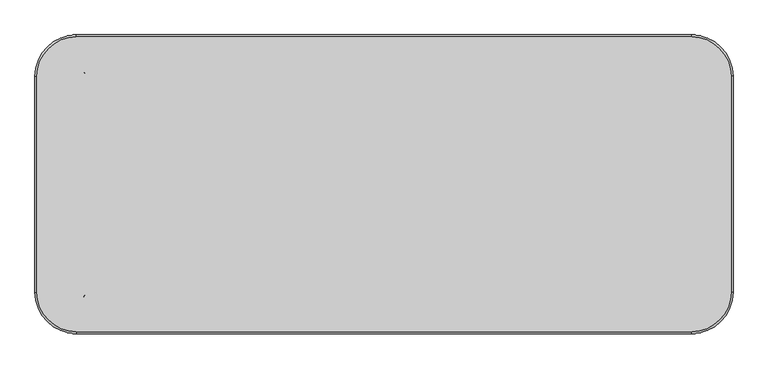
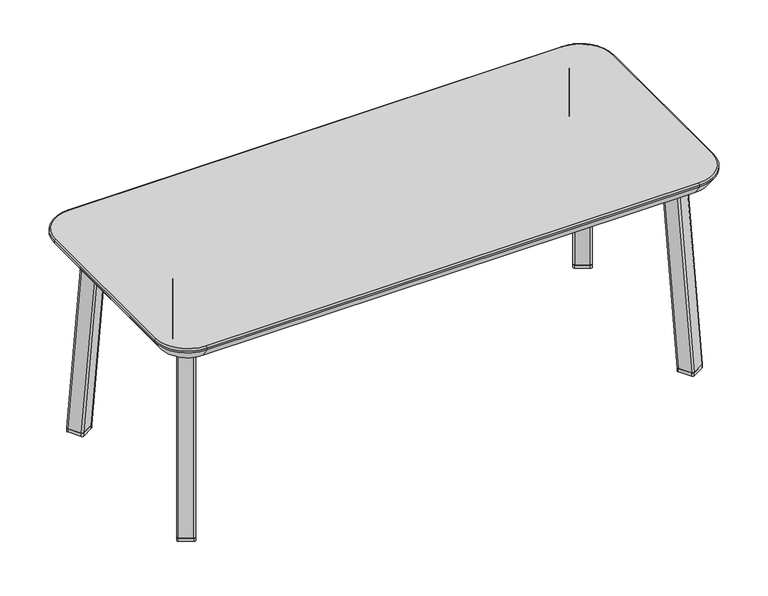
"""IFC4 building model written with IfcOpenShell, lengths in millimetres: furniture geometry, Stance_HC-Jensen-Occasional-Table : JETF184216-T."""

from ifc_helpers import new_model, si_unit, point, frame, frame_2d, origin, origin_with_axes, place, context, project, spatial, polyline, circle_curve, ellipse_curve, trimmed, segment, composite_curve, outline, extrude, source, transform, mapped, element, save
from ifc_brep_helpers import plane_surface, cylinder_surface, revolved_surface, extruded_surface, advanced_brep


def furniture_e1ee54df(model_context):
    return source(origin(), model_context, "Body", "SolidModel", [
        extrude(outline(composite_curve([segment(polyline([(499.481574, -184.2321033), (477.4845247, -196.9321056)]), True, "CONTINUOUS"), segment(trimmed(circle_curve(frame_2d((475.8970247, -194.182475)), 3.175), [point((477.4845247, -196.9321056))], [point((473.147394, -195.769975))], False, "CARTESIAN"), True, "CONTINUOUS"), segment(polyline([(473.147394, -195.769975), (460.3983038, -173.687903)]), True, "CONTINUOUS"), segment(trimmed(circle_curve(frame_2d((463.1479345, -172.100403)), 3.175), [point((460.3983038, -173.687903))], [point((461.5604345, -169.3507723))], False, "CARTESIAN"), True, "CONTINUOUS"), segment(polyline([(461.5604345, -169.3507723), (483.5574838, -156.65077)]), True, "CONTINUOUS"), segment(trimmed(circle_curve(frame_2d((485.1449838, -159.4004007)), 3.175), [point((483.5574838, -156.65077))], [point((487.8946144, -157.8129007))], False, "CARTESIAN"), True, "CONTINUOUS"), segment(polyline([(487.8946144, -157.8129007), (500.6437046, -179.8949726)]), True, "CONTINUOUS"), segment(trimmed(circle_curve(frame_2d((497.894074, -181.4824726)), 3.175), [point((500.6437046, -179.8949726))], [point((499.481574, -184.2321033))], False, "CARTESIAN"), True, "CONTINUOUS")], self_intersect=False)), origin_with_axes(), (0.0, 0.0, 1.0), 6.35),
        extrude(outline(composite_curve([segment(polyline([(477.4845247, 196.9321056), (499.481574, 184.2321033)]), True, "CONTINUOUS"), segment(trimmed(circle_curve(frame_2d((497.894074, 181.4824726)), 3.175), [point((499.481574, 184.2321033))], [point((500.6437046, 179.8949726))], False, "CARTESIAN"), True, "CONTINUOUS"), segment(polyline([(500.6437046, 179.8949726), (487.8946144, 157.8129007)]), True, "CONTINUOUS"), segment(trimmed(circle_curve(frame_2d((485.1449838, 159.4004007)), 3.175), [point((487.8946144, 157.8129007))], [point((483.5574838, 156.65077))], False, "CARTESIAN"), True, "CONTINUOUS"), segment(polyline([(483.5574838, 156.65077), (461.5604345, 169.3507723)]), True, "CONTINUOUS"), segment(trimmed(circle_curve(frame_2d((463.1479345, 172.100403)), 3.175), [point((461.5604345, 169.3507723))], [point((460.3983038, 173.687903))], False, "CARTESIAN"), True, "CONTINUOUS"), segment(polyline([(460.3983038, 173.687903), (473.147394, 195.769975)]), True, "CONTINUOUS"), segment(trimmed(circle_curve(frame_2d((475.8970247, 194.182475)), 3.175), [point((473.147394, 195.769975))], [point((477.4845247, 196.9321056))], False, "CARTESIAN"), True, "CONTINUOUS")], self_intersect=False)), origin_with_axes(), (0.0, 0.0, 1.0), 6.35),
        advanced_brep(
        [(446.7120024, -143.6325373, 380.5094413), (445.5498717, -147.9696679, 380.5094413), (458.2989619, -170.0517399, 380.5094413), (462.6360926, -171.2138706, 380.5094413), (484.6331418, -158.5138683, 380.5094413), (485.7952725, -154.1767376, 380.5094413), (473.0461823, -132.0946656, 380.5094413), (468.7090516, -130.932535, 380.5094413), (461.5604345, -169.3507723, 6.35), (483.5574838, -156.65077, 6.35), (487.8946144, -157.8129007, 6.35), (500.6437046, -179.8949726, 6.35), (499.481574, -184.2321033, 6.35), (477.4845247, -196.9321056, 6.35), (473.147394, -195.769975, 6.35), (460.3983038, -173.687903, 6.35)],
        [
            (0, 1, circle_curve(frame((448.2995024, -146.3821679, 380.5094413), z_axis=(0.0, 0.0, 1.0), x_axis=(-1.0, 0.0, 0.0)), 3.175)),
            (1, 2),
            (2, 3, circle_curve(frame((461.0485926, -168.4642399, 380.5094413), z_axis=(0.0, 0.0, 1.0), x_axis=(-1.0, 0.0, 0.0)), 3.175)),
            (3, 4),
            (4, 5, circle_curve(frame((483.0456418, -155.7642376, 380.5094413), z_axis=(0.0, 0.0, 1.0), x_axis=(-1.0, 0.0, 0.0)), 3.175)),
            (5, 6),
            (6, 7, circle_curve(frame((470.2965516, -133.6821656, 380.5094413), z_axis=(0.0, 0.0, 1.0), x_axis=(-1.0, 0.0, 0.0)), 3.175)),
            (7, 0),
            (8, 9),
            (9, 10, circle_curve(frame((485.1449838, -159.4004007, 6.35), z_axis=(0.0, 0.0, -1.0), x_axis=(-1.0, 0.0, 0.0)), 3.175)),
            (10, 11),
            (11, 12, circle_curve(frame((497.894074, -181.4824726, 6.35), z_axis=(0.0, 0.0, -1.0), x_axis=(-1.0, 0.0, 0.0)), 3.175)),
            (12, 13),
            (13, 14, circle_curve(frame((475.8970247, -194.182475, 6.35), z_axis=(0.0, 0.0, -1.0), x_axis=(-1.0, 0.0, 0.0)), 3.175)),
            (14, 15),
            (15, 8, circle_curve(frame((463.1479345, -172.100403, 6.35), z_axis=(0.0, 0.0, -1.0), x_axis=(-1.0, 0.0, 0.0)), 3.175)),
            (15, 1),
            (0, 8),
            (14, 2),
            (13, 3),
            (12, 4),
            (11, 5),
            (10, 6),
            (9, 7),
        ],
        [
            plane_surface(frame((465.6725721, -151.0732028, 380.5094413), z_axis=(0.0, 0.0, 1.0000000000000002), x_axis=(0.8660254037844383, 0.5000000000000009, 0.0))),
            plane_surface(frame((480.5210042, -176.7914378, 6.35), z_axis=(0.0, 0.0, -1.0000000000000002), x_axis=(0.8660254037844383, 0.5000000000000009, 0.0))),
            extruded_surface(trimmed(circle_curve(frame((448.2995024, -146.3821679, 380.5094413), z_axis=(0.0, 0.0, -1.0), x_axis=(-1.0, 0.0, 0.0)), 3.175), [point((445.5498717, -147.9696679, 380.5094413))], [point((446.7120024, -143.6325373, 380.5094413))], True, "CARTESIAN"), (14.848432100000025, -25.718235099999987, -374.15944129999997), 375.3361041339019),
            plane_surface(frame((466.7728489, -184.728939, 6.35), z_axis=(-0.8660254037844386, -0.5000000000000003, -5.1142628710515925e-09), x_axis=(-0.5000000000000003, 0.8660254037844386, 0.0))),
            extruded_surface(trimmed(circle_curve(frame((461.0485926, -168.4642399, 380.5094413), z_axis=(0.0, 0.0, -1.0), x_axis=(-1.0, 0.0, 0.0)), 3.175), [point((462.6360926, -171.2138706, 380.5094413))], [point((458.2989619, -170.0517399, 380.5094413))], True, "CARTESIAN"), (14.848432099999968, -25.718235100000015, -374.15944129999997), 375.3361041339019),
            plane_surface(frame((488.4830493, -190.5821045, 6.35), z_axis=(0.4984325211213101, -0.863310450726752, 0.07912071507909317), x_axis=(-0.8660254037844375, -0.500000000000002, 0.0))),
            extruded_surface(trimmed(circle_curve(frame((483.0456418, -155.7642376, 380.5094413), z_axis=(0.0, 0.0, -1.0), x_axis=(-1.0, 0.0, 0.0)), 3.175), [point((485.7952725, -154.1767376, 380.5094413))], [point((484.6331418, -158.5138683, 380.5094413))], True, "CARTESIAN"), (14.84843219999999, -25.718234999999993, -374.15944129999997), 375.3361041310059),
            plane_surface(frame((494.2691595, -168.8539367, 6.35), z_axis=(0.866025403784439, 0.4999999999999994, 5.114262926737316e-09), x_axis=(0.4999999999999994, -0.866025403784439, 0.0))),
            extruded_surface(trimmed(circle_curve(frame((470.2965516, -133.6821656, 380.5094413), z_axis=(0.0, 0.0, -1.0), x_axis=(-1.0, 0.0, 0.0)), 3.175), [point((468.7090516, -130.932535, 380.5094413))], [point((473.0461823, -132.0946656, 380.5094413))], True, "CARTESIAN"), (14.84843219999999, -25.718235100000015, -374.15944129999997), 375.336104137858),
            plane_surface(frame((472.5589591, -163.0007712, 6.35), z_axis=(-0.49843252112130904, 0.8633104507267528, -0.07912071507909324), x_axis=(0.8660254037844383, 0.5000000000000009, 0.0))),
        ],
        [
            (0, [[1, 2, 3, 4, 5, 6, 7, 8]]),
            (1, [[9, 10, 11, 12, 13, 14, 15, 16]]),
            (2, [[17, -1, 18, -16]]),
            (3, [[19, -2, -17, -15]]),
            (4, [[20, -3, -19, -14]]),
            (5, [[21, -4, -20, -13]]),
            (6, [[22, -5, -21, -12]]),
            (7, [[23, -6, -22, -11]]),
            (8, [[24, -7, -23, -10]]),
            (9, [[-18, -8, -24, -9]]),
        ],
    ),
        extrude(outline(polyline([(505.5820372, 175.8326548), (404.3982292, 0.0), (505.5820372, -175.8326548), (467.1068508, -197.9733992), (353.1820372, 0.0), (467.1068508, 197.9733992), (505.5820372, 175.8326548)])), frame((0.0, 0.0, 380.5094413), z_axis=(0.0, 0.0, 1.0), x_axis=(1.0, 0.0, 0.0)), (0.0, 0.0, 1.0), 3.1749879),
        advanced_brep(
        [(446.7120024, 143.6325373, 380.5094413), (468.7090516, 130.932535, 380.5094413), (473.0461823, 132.0946656, 380.5094413), (485.7952725, 154.1767376, 380.5094413), (484.6331418, 158.5138683, 380.5094413), (462.6360926, 171.2138706, 380.5094413), (458.2989619, 170.0517399, 380.5094413), (445.5498717, 147.9696679, 380.5094413), (461.5604345, 169.3507723, 6.35), (460.3983038, 173.687903, 6.35), (473.147394, 195.769975, 6.35), (477.4845247, 196.9321056, 6.35), (499.481574, 184.2321033, 6.35), (500.6437046, 179.8949726, 6.35), (487.8946144, 157.8129007, 6.35), (483.5574838, 156.65077, 6.35)],
        [
            (0, 1),
            (1, 2, circle_curve(frame((470.2965516, 133.6821656, 380.5094413), z_axis=(0.0, 0.0, 1.0), x_axis=(-1.0, 0.0, 0.0)), 3.175)),
            (2, 3),
            (3, 4, circle_curve(frame((483.0456418, 155.7642376, 380.5094413), z_axis=(0.0, 0.0, 1.0), x_axis=(-1.0, 0.0, 0.0)), 3.175)),
            (4, 5),
            (5, 6, circle_curve(frame((461.0485926, 168.4642399, 380.5094413), z_axis=(0.0, 0.0, 1.0), x_axis=(-1.0, 0.0, 0.0)), 3.175)),
            (6, 7),
            (7, 0, circle_curve(frame((448.2995024, 146.3821679, 380.5094413), z_axis=(0.0, 0.0, 1.0), x_axis=(-1.0, 0.0, 0.0)), 3.175)),
            (8, 9, circle_curve(frame((463.1479345, 172.100403, 6.35), z_axis=(0.0, 0.0, -1.0), x_axis=(-1.0, 0.0, 0.0)), 3.175)),
            (9, 10),
            (10, 11, circle_curve(frame((475.8970247, 194.182475, 6.35), z_axis=(0.0, 0.0, -1.0), x_axis=(-1.0, 0.0, 0.0)), 3.175)),
            (11, 12),
            (12, 13, circle_curve(frame((497.894074, 181.4824726, 6.35), z_axis=(0.0, 0.0, -1.0), x_axis=(-1.0, 0.0, 0.0)), 3.175)),
            (13, 14),
            (14, 15, circle_curve(frame((485.1449838, 159.4004007, 6.35), z_axis=(0.0, 0.0, -1.0), x_axis=(-1.0, 0.0, 0.0)), 3.175)),
            (15, 8),
            (8, 0),
            (7, 9),
            (6, 10),
            (5, 11),
            (4, 12),
            (3, 13),
            (2, 14),
            (1, 15),
        ],
        [
            plane_surface(frame((465.6725721, 151.0732028, 380.5094413), z_axis=(0.0, 0.0, 1.0), x_axis=(-0.8660254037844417, 0.49999999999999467, 0.0))),
            plane_surface(frame((480.5210042, 176.7914378, 6.35), z_axis=(0.0, 0.0, -1.0), x_axis=(-0.8660254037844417, 0.49999999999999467, 0.0))),
            extruded_surface(trimmed(circle_curve(frame((448.2995024, 146.3821679, 380.5094413), z_axis=(0.0, 0.0, -1.0), x_axis=(-1.0, 0.0, 0.0)), 3.175), [point((446.7120024, 143.6325373, 380.5094413))], [point((445.5498717, 147.9696679, 380.5094413))], True, "CARTESIAN"), (14.848432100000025, 25.718235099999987, -374.15944129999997), 375.3361041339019),
            plane_surface(frame((466.7728489, 184.728939, 6.35), z_axis=(-0.8660254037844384, 0.5000000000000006, -5.114262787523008e-09), x_axis=(0.5000000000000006, 0.8660254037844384, 0.0))),
            extruded_surface(trimmed(circle_curve(frame((461.0485926, 168.4642399, 380.5094413), z_axis=(0.0, 0.0, -1.0), x_axis=(-1.0, 0.0, 0.0)), 3.175), [point((458.2989619, 170.0517399, 380.5094413))], [point((462.6360926, 171.2138706, 380.5094413))], True, "CARTESIAN"), (14.848432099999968, 25.718235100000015, -374.15944129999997), 375.3361041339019),
            plane_surface(frame((488.4830493, 190.5821045, 6.35), z_axis=(0.4984325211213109, 0.8633104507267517, 0.07912071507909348), x_axis=(0.8660254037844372, -0.5000000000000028, 0.0))),
            extruded_surface(trimmed(circle_curve(frame((483.0456418, 155.7642376, 380.5094413), z_axis=(0.0, 0.0, -1.0), x_axis=(-1.0, 0.0, 0.0)), 3.175), [point((484.6331418, 158.5138683, 380.5094413))], [point((485.7952725, 154.1767376, 380.5094413))], True, "CARTESIAN"), (14.84843219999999, 25.718234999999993, -374.15944129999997), 375.3361041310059),
            plane_surface(frame((494.2691595, 168.8539367, 6.35), z_axis=(0.8660254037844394, -0.49999999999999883, 5.1142628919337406e-09), x_axis=(-0.49999999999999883, -0.8660254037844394, 0.0))),
            extruded_surface(trimmed(circle_curve(frame((470.2965516, 133.6821656, 380.5094413), z_axis=(0.0, 0.0, -1.0), x_axis=(-1.0, 0.0, 0.0)), 3.175), [point((473.0461823, 132.0946656, 380.5094413))], [point((468.7090516, 130.932535, 380.5094413))], True, "CARTESIAN"), (14.84843219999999, 25.718235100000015, -374.15944129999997), 375.336104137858),
            plane_surface(frame((472.5589591, 163.0007712, 6.35), z_axis=(-0.4984325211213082, -0.8633104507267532, -0.07912071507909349), x_axis=(-0.8660254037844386, 0.5000000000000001, 0.0))),
        ],
        [
            (0, [[1, 2, 3, 4, 5, 6, 7, 8]]),
            (1, [[9, 10, 11, 12, 13, 14, 15, 16]]),
            (2, [[17, -8, 18, -9]]),
            (3, [[-18, -7, 19, -10]]),
            (4, [[-19, -6, 20, -11]]),
            (5, [[-20, -5, 21, -12]]),
            (6, [[-21, -4, 22, -13]]),
            (7, [[-22, -3, 23, -14]]),
            (8, [[-23, -2, 24, -15]]),
            (9, [[-24, -1, -17, -16]]),
        ],
    ),
        extrude(outline(composite_curve([segment(trimmed(circle_curve(frame_2d((-496.490244, -181.4824726)), 3.175), [point((-498.077744, -184.2321033))], [point((-499.2398747, -179.8949726))], False, "CARTESIAN"), True, "CONTINUOUS"), segment(polyline([(-499.2398747, -179.8949726), (-486.4907845, -157.8129007)]), True, "CONTINUOUS"), segment(trimmed(circle_curve(frame_2d((-483.7411538, -159.4004007)), 3.175), [point((-486.4907845, -157.8129007))], [point((-482.1536538, -156.65077))], False, "CARTESIAN"), True, "CONTINUOUS"), segment(polyline([(-482.1536538, -156.65077), (-460.1566046, -169.3507723)]), True, "CONTINUOUS"), segment(trimmed(circle_curve(frame_2d((-461.7441046, -172.100403)), 3.175), [point((-460.1566046, -169.3507723))], [point((-458.9944739, -173.687903))], False, "CARTESIAN"), True, "CONTINUOUS"), segment(polyline([(-458.9944739, -173.687903), (-471.7435641, -195.769975)]), True, "CONTINUOUS"), segment(trimmed(circle_curve(frame_2d((-474.4931948, -194.182475)), 3.175), [point((-471.7435641, -195.769975))], [point((-476.0806948, -196.9321056))], False, "CARTESIAN"), True, "CONTINUOUS"), segment(polyline([(-476.0806948, -196.9321056), (-498.077744, -184.2321033)]), True, "CONTINUOUS")], self_intersect=False)), origin_with_axes(), (0.0, 0.0, 1.0), 6.35),
        extrude(outline(composite_curve([segment(trimmed(circle_curve(frame_2d((-474.4931948, 194.182475)), 3.175), [point((-476.0806948, 196.9321056))], [point((-471.7435641, 195.769975))], False, "CARTESIAN"), True, "CONTINUOUS"), segment(polyline([(-471.7435641, 195.769975), (-458.9944739, 173.687903)]), True, "CONTINUOUS"), segment(trimmed(circle_curve(frame_2d((-461.7441046, 172.100403)), 3.175), [point((-458.9944739, 173.687903))], [point((-460.1566046, 169.3507723))], False, "CARTESIAN"), True, "CONTINUOUS"), segment(polyline([(-460.1566046, 169.3507723), (-482.1536538, 156.65077)]), True, "CONTINUOUS"), segment(trimmed(circle_curve(frame_2d((-483.7411538, 159.4004007)), 3.175), [point((-482.1536538, 156.65077))], [point((-486.4907845, 157.8129007))], False, "CARTESIAN"), True, "CONTINUOUS"), segment(polyline([(-486.4907845, 157.8129007), (-499.2398747, 179.8949726)]), True, "CONTINUOUS"), segment(trimmed(circle_curve(frame_2d((-496.490244, 181.4824726)), 3.175), [point((-499.2398747, 179.8949726))], [point((-498.077744, 184.2321033))], False, "CARTESIAN"), True, "CONTINUOUS"), segment(polyline([(-498.077744, 184.2321033), (-476.0806948, 196.9321056)]), True, "CONTINUOUS")], self_intersect=False)), origin_with_axes(), (0.0, 0.0, 1.0), 6.35),
        advanced_brep(
        [(-445.3081724, -143.6325373, 380.5094413), (-467.3052217, -130.932535, 380.5094413), (-471.6423524, -132.0946656, 380.5094413), (-484.3914426, -154.1767376, 380.5094413), (-483.2293119, -158.5138683, 380.5094413), (-461.2322626, -171.2138706, 380.5094413), (-456.895132, -170.0517399, 380.5094413), (-444.1460418, -147.9696679, 380.5094413), (-460.1566046, -169.3507723, 6.35), (-458.9944739, -173.687903, 6.35), (-471.7435641, -195.769975, 6.35), (-476.0806948, -196.9321056, 6.35), (-498.077744, -184.2321033, 6.35), (-499.2398747, -179.8949726, 6.35), (-486.4907845, -157.8129007, 6.35), (-482.1536538, -156.65077, 6.35)],
        [
            (0, 1),
            (1, 2, circle_curve(frame((-468.8927217, -133.6821656, 380.5094413), z_axis=(0.0, 0.0, 1.0), x_axis=(1.0, 0.0, 0.0)), 3.175)),
            (2, 3),
            (3, 4, circle_curve(frame((-481.6418119, -155.7642376, 380.5094413), z_axis=(0.0, 0.0, 1.0), x_axis=(1.0, 0.0, 0.0)), 3.175)),
            (4, 5),
            (5, 6, circle_curve(frame((-459.6447626, -168.4642399, 380.5094413), z_axis=(0.0, 0.0, 1.0), x_axis=(1.0, 0.0, 0.0)), 3.175)),
            (6, 7),
            (7, 0, circle_curve(frame((-446.8956724, -146.3821679, 380.5094413), z_axis=(0.0, 0.0, 1.0), x_axis=(1.0, 0.0, 0.0)), 3.175)),
            (8, 9, circle_curve(frame((-461.7441046, -172.100403, 6.35), z_axis=(0.0, 0.0, -1.0), x_axis=(1.0, 0.0, 0.0)), 3.175)),
            (9, 10),
            (10, 11, circle_curve(frame((-474.4931948, -194.182475, 6.35), z_axis=(0.0, 0.0, -1.0), x_axis=(1.0, 0.0, 0.0)), 3.175)),
            (11, 12),
            (12, 13, circle_curve(frame((-496.490244, -181.4824726, 6.35), z_axis=(0.0, 0.0, -1.0), x_axis=(1.0, 0.0, 0.0)), 3.175)),
            (13, 14),
            (14, 15, circle_curve(frame((-483.7411538, -159.4004007, 6.35), z_axis=(0.0, 0.0, -1.0), x_axis=(1.0, 0.0, 0.0)), 3.175)),
            (15, 8),
            (8, 0),
            (7, 9),
            (6, 10),
            (5, 11),
            (4, 12),
            (3, 13),
            (2, 14),
            (1, 15),
        ],
        [
            plane_surface(frame((-464.2687422, -151.0732028, 380.5094413), z_axis=(0.0, 0.0, 1.0000000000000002), x_axis=(-0.8660254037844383, 0.5000000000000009, 0.0))),
            plane_surface(frame((-479.1171743, -176.7914378, 6.35), z_axis=(0.0, 0.0, -1.0000000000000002), x_axis=(-0.8660254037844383, 0.5000000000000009, 0.0))),
            extruded_surface(trimmed(circle_curve(frame((-461.7441046, -172.100403, 6.35), z_axis=(0.0, 0.0, 1.0), x_axis=(1.0, 0.0, 0.0)), 3.175), [point((-458.9944739, -173.687903, 6.35))], [point((-460.1566046, -169.3507723, 6.35))], True, "CARTESIAN"), (14.84843219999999, 25.718235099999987, 374.15944129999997), 375.336104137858),
            plane_surface(frame((-465.369019, -184.728939, 6.35), z_axis=(0.8660254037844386, -0.5000000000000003, -5.1142628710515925e-09), x_axis=(0.5000000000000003, 0.8660254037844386, 0.0))),
            extruded_surface(trimmed(circle_curve(frame((-474.4931948, -194.182475, 6.35), z_axis=(0.0, 0.0, 1.0), x_axis=(1.0, 0.0, 0.0)), 3.175), [point((-476.0806948, -196.9321056, 6.35))], [point((-471.7435641, -195.769975, 6.35))], True, "CARTESIAN"), (14.848432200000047, 25.718235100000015, 374.15944129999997), 375.336104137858),
            plane_surface(frame((-487.0792194, -190.5821045, 6.35), z_axis=(-0.4984325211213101, -0.863310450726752, 0.07912071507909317), x_axis=(0.8660254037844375, -0.500000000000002, 0.0))),
            extruded_surface(trimmed(circle_curve(frame((-496.490244, -181.4824726, 6.35), z_axis=(0.0, 0.0, 1.0), x_axis=(1.0, 0.0, 0.0)), 3.175), [point((-499.2398747, -179.8949726, 6.35))], [point((-498.077744, -184.2321033, 6.35))], True, "CARTESIAN"), (14.848432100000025, 25.718234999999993, 374.15944129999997), 375.3361041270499),
            plane_surface(frame((-492.8653296, -168.8539367, 6.35), z_axis=(-0.866025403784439, 0.4999999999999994, 5.114262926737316e-09), x_axis=(-0.4999999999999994, -0.866025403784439, 0.0))),
            extruded_surface(trimmed(circle_curve(frame((-483.7411538, -159.4004007, 6.35), z_axis=(0.0, 0.0, 1.0), x_axis=(1.0, 0.0, 0.0)), 3.175), [point((-482.1536538, -156.65077, 6.35))], [point((-486.4907845, -157.8129007, 6.35))], True, "CARTESIAN"), (14.848432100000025, 25.718235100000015, 374.15944129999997), 375.3361041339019),
            plane_surface(frame((-471.1551292, -163.0007712, 6.35), z_axis=(0.49843252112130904, 0.8633104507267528, -0.07912071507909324), x_axis=(-0.8660254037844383, 0.5000000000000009, 0.0))),
        ],
        [
            (0, [[1, 2, 3, 4, 5, 6, 7, 8]]),
            (1, [[9, 10, 11, 12, 13, 14, 15, 16]]),
            (2, [[-9, 17, -8, 18]]),
            (3, [[-10, -18, -7, 19]]),
            (4, [[-11, -19, -6, 20]]),
            (5, [[-12, -20, -5, 21]]),
            (6, [[-13, -21, -4, 22]]),
            (7, [[-14, -22, -3, 23]]),
            (8, [[-15, -23, -2, 24]]),
            (9, [[-16, -24, -1, -17]]),
        ],
    ),
        extrude(outline(polyline([(-504.1782073, 175.8326548), (-465.7030209, 197.9733992), (-351.7782073, 0.0), (-465.7030209, -197.9733992), (-504.1782073, -175.8326548), (-402.9943993, 0.0), (-504.1782073, 175.8326548)])), frame((0.0, 0.0, 380.5094413), z_axis=(0.0, 0.0, 1.0), x_axis=(1.0, 0.0, 0.0)), (0.0, 0.0, 1.0), 3.1749879),
        advanced_brep(
        [(-445.3081724, 143.6325373, 380.5094413), (-444.1460418, 147.9696679, 380.5094413), (-456.895132, 170.0517399, 380.5094413), (-461.2322626, 171.2138706, 380.5094413), (-483.2293119, 158.5138683, 380.5094413), (-484.3914426, 154.1767376, 380.5094413), (-471.6423524, 132.0946656, 380.5094413), (-467.3052217, 130.932535, 380.5094413), (-460.1566046, 169.3507723, 6.35), (-482.1536538, 156.65077, 6.35), (-486.4907845, 157.8129007, 6.35), (-499.2398747, 179.8949726, 6.35), (-498.077744, 184.2321033, 6.35), (-476.0806948, 196.9321056, 6.35), (-471.7435641, 195.769975, 6.35), (-458.9944739, 173.687903, 6.35)],
        [
            (0, 1, circle_curve(frame((-446.8956724, 146.3821679, 380.5094413), z_axis=(0.0, 0.0, 1.0), x_axis=(1.0, 0.0, 0.0)), 3.175)),
            (1, 2),
            (2, 3, circle_curve(frame((-459.6447626, 168.4642399, 380.5094413), z_axis=(0.0, 0.0, 1.0), x_axis=(1.0, 0.0, 0.0)), 3.175)),
            (3, 4),
            (4, 5, circle_curve(frame((-481.6418119, 155.7642376, 380.5094413), z_axis=(0.0, 0.0, 1.0), x_axis=(1.0, 0.0, 0.0)), 3.175)),
            (5, 6),
            (6, 7, circle_curve(frame((-468.8927217, 133.6821656, 380.5094413), z_axis=(0.0, 0.0, 1.0), x_axis=(1.0, 0.0, 0.0)), 3.175)),
            (7, 0),
            (8, 9),
            (9, 10, circle_curve(frame((-483.7411538, 159.4004007, 6.35), z_axis=(0.0, 0.0, -1.0), x_axis=(1.0, 0.0, 0.0)), 3.175)),
            (10, 11),
            (11, 12, circle_curve(frame((-496.490244, 181.4824726, 6.35), z_axis=(0.0, 0.0, -1.0), x_axis=(1.0, 0.0, 0.0)), 3.175)),
            (12, 13),
            (13, 14, circle_curve(frame((-474.4931948, 194.182475, 6.35), z_axis=(0.0, 0.0, -1.0), x_axis=(1.0, 0.0, 0.0)), 3.175)),
            (14, 15),
            (15, 8, circle_curve(frame((-461.7441046, 172.100403, 6.35), z_axis=(0.0, 0.0, -1.0), x_axis=(1.0, 0.0, 0.0)), 3.175)),
            (15, 1),
            (0, 8),
            (14, 2),
            (13, 3),
            (12, 4),
            (11, 5),
            (10, 6),
            (9, 7),
        ],
        [
            plane_surface(frame((-464.2687422, 151.0732028, 380.5094413), z_axis=(0.0, 0.0, 1.0), x_axis=(0.8660254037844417, 0.49999999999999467, 0.0))),
            plane_surface(frame((-479.1171743, 176.7914378, 6.35), z_axis=(0.0, 0.0, -1.0), x_axis=(0.8660254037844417, 0.49999999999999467, 0.0))),
            extruded_surface(trimmed(circle_curve(frame((-461.7441046, 172.100403, 6.35), z_axis=(0.0, 0.0, 1.0), x_axis=(1.0, 0.0, 0.0)), 3.175), [point((-460.1566046, 169.3507723, 6.35))], [point((-458.9944739, 173.687903, 6.35))], True, "CARTESIAN"), (14.84843219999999, -25.718235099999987, 374.15944129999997), 375.336104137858),
            plane_surface(frame((-465.369019, 184.728939, 6.35), z_axis=(0.8660254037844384, 0.5000000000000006, -5.114262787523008e-09), x_axis=(-0.5000000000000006, 0.8660254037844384, 0.0))),
            extruded_surface(trimmed(circle_curve(frame((-474.4931948, 194.182475, 6.35), z_axis=(0.0, 0.0, 1.0), x_axis=(1.0, 0.0, 0.0)), 3.175), [point((-471.7435641, 195.769975, 6.35))], [point((-476.0806948, 196.9321056, 6.35))], True, "CARTESIAN"), (14.848432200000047, -25.718235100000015, 374.15944129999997), 375.336104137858),
            plane_surface(frame((-487.0792194, 190.5821045, 6.35), z_axis=(-0.4984325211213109, 0.8633104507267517, 0.07912071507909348), x_axis=(-0.8660254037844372, -0.5000000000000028, 0.0))),
            extruded_surface(trimmed(circle_curve(frame((-496.490244, 181.4824726, 6.35), z_axis=(0.0, 0.0, 1.0), x_axis=(1.0, 0.0, 0.0)), 3.175), [point((-498.077744, 184.2321033, 6.35))], [point((-499.2398747, 179.8949726, 6.35))], True, "CARTESIAN"), (14.848432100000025, -25.718234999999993, 374.15944129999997), 375.3361041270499),
            plane_surface(frame((-492.8653296, 168.8539367, 6.35), z_axis=(-0.8660254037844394, -0.49999999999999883, 5.1142628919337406e-09), x_axis=(0.49999999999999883, -0.8660254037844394, 0.0))),
            extruded_surface(trimmed(circle_curve(frame((-483.7411538, 159.4004007, 6.35), z_axis=(0.0, 0.0, 1.0), x_axis=(1.0, 0.0, 0.0)), 3.175), [point((-486.4907845, 157.8129007, 6.35))], [point((-482.1536538, 156.65077, 6.35))], True, "CARTESIAN"), (14.848432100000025, -25.718235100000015, 374.15944129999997), 375.3361041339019),
            plane_surface(frame((-471.1551292, 163.0007712, 6.35), z_axis=(0.4984325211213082, -0.8633104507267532, -0.07912071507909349), x_axis=(0.8660254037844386, 0.5000000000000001, 0.0))),
        ],
        [
            (0, [[1, 2, 3, 4, 5, 6, 7, 8]]),
            (1, [[9, 10, 11, 12, 13, 14, 15, 16]]),
            (2, [[-16, 17, -1, 18]]),
            (3, [[-15, 19, -2, -17]]),
            (4, [[-14, 20, -3, -19]]),
            (5, [[-13, 21, -4, -20]]),
            (6, [[-12, 22, -5, -21]]),
            (7, [[-11, 23, -6, -22]]),
            (8, [[-10, 24, -7, -23]]),
            (9, [[-9, -18, -8, -24]]),
        ],
    ),
        advanced_brep(
        [(533.4, -165.1, 405.9094413), (469.9, -228.6, 405.9094413), (469.9, -228.6, 402.7343928), (533.4, -165.1, 402.7343928), (469.9, -215.2610718, 383.6844292), (520.0610718, -165.1, 383.6844292), (533.4, 165.1, 402.7343928), (533.4, 165.1, 405.9094413), (520.0610718, 165.1, 383.6844292), (469.9, 228.6, 402.7343928), (469.9, 228.6, 405.9094413), (469.9, 215.2610718, 383.6844292), (-469.9, 228.6, 402.7343928), (-469.9, 228.6, 405.9094413), (-469.9, 215.2610718, 383.6844292), (-533.4, 165.1, 402.7343928), (-533.4, 165.1, 405.9094413), (-520.0610718, 165.1, 383.6844292), (-533.4, -165.1, 402.7343928), (-533.4, -165.1, 405.9094413), (-520.0610718, -165.1, 383.6844292), (-469.9, -228.6, 402.7343928), (-469.9, -228.6, 405.9094413), (-469.9, -215.2610718, 383.6844292), (-530.225, 165.1, 409.0844413), (-530.225, -165.1, 409.0844413), (-469.9, -225.425, 409.0844413), (469.9, -225.425, 409.0844413), (530.225, -165.1, 409.0844413), (530.225, 165.1, 409.0844413), (469.9, 225.425, 409.0844413), (-469.9, 225.425, 409.0844413)],
        [
            (0, 1, circle_curve(frame((469.9, -165.1, 405.9094413), z_axis=(0.0, 0.0, -1.0), x_axis=(0.0, -1.0, 0.0)), 63.5)),
            (1, 2),
            (2, 3, circle_curve(frame((469.9, -165.1, 402.7343928), z_axis=(0.0, 0.0, 1.0), x_axis=(0.0, -1.0, 0.0)), 63.5)),
            (3, 0),
            (2, 4),
            (4, 5, circle_curve(frame((469.9, -165.1, 383.6844292), z_axis=(0.0, 0.0, 1.0), x_axis=(0.0, -1.0, 0.0)), 50.1610718)),
            (5, 3),
            (3, 6),
            (6, 7),
            (7, 0),
            (5, 8),
            (8, 6),
            (6, 9, circle_curve(frame((469.9, 165.1, 402.7343928), z_axis=(0.0, 0.0, 1.0), x_axis=(1.0, 0.0, 0.0)), 63.5)),
            (9, 10),
            (10, 7, circle_curve(frame((469.9, 165.1, 405.9094413), z_axis=(0.0, 0.0, -1.0), x_axis=(1.0, 0.0, 0.0)), 63.5)),
            (8, 11, circle_curve(frame((469.9, 165.1, 383.6844292), z_axis=(0.0, 0.0, 1.0), x_axis=(1.0, 0.0, 0.0)), 50.1610718)),
            (11, 9),
            (9, 12),
            (12, 13),
            (13, 10),
            (11, 14),
            (14, 12),
            (12, 15, circle_curve(frame((-469.9, 165.1, 402.7343928), z_axis=(0.0, 0.0, 1.0), x_axis=(0.0, 1.0, 0.0)), 63.5)),
            (15, 16),
            (16, 13, circle_curve(frame((-469.9, 165.1, 405.9094413), z_axis=(0.0, 0.0, -1.0), x_axis=(0.0, 1.0, 0.0)), 63.5)),
            (14, 17, circle_curve(frame((-469.9, 165.1, 383.6844292), z_axis=(0.0, 0.0, 1.0), x_axis=(0.0, 1.0, 0.0)), 50.1610718)),
            (17, 15),
            (15, 18),
            (18, 19),
            (19, 16),
            (17, 20),
            (20, 18),
            (18, 21, circle_curve(frame((-469.9, -165.1, 402.7343928), z_axis=(0.0, 0.0, 1.0), x_axis=(-1.0, 0.0, 0.0)), 63.5)),
            (21, 22),
            (22, 19, circle_curve(frame((-469.9, -165.1, 405.9094413), z_axis=(0.0, 0.0, -1.0), x_axis=(-1.0, 0.0, 0.0)), 63.5)),
            (20, 23, circle_curve(frame((-469.9, -165.1, 383.6844292), z_axis=(0.0, 0.0, 1.0), x_axis=(-1.0, 0.0, 0.0)), 50.1610718)),
            (23, 21),
            (1, 22),
            (21, 2),
            (24, 25),
            (25, 26, circle_curve(frame((-469.9, -165.1, 409.0844413), z_axis=(0.0, 0.0, 1.0), x_axis=(-1.0, 0.0, 0.0)), 60.325)),
            (26, 27),
            (27, 28, circle_curve(frame((469.9, -165.1, 409.0844413), z_axis=(0.0, 0.0, 1.0), x_axis=(0.0, -1.0, 0.0)), 60.325)),
            (28, 29),
            (29, 30, circle_curve(frame((469.9, 165.1, 409.0844413), z_axis=(0.0, 0.0, 1.0), x_axis=(1.0, 0.0, 0.0)), 60.325)),
            (30, 31),
            (31, 24, circle_curve(frame((-469.9, 165.1, 409.0844413), z_axis=(0.0, 0.0, 1.0), x_axis=(0.0, 1.0, 0.0)), 60.325)),
            (4, 23),
            (0, 28, circle_curve(frame((530.225, -165.1, 405.9094413), z_axis=(0.0, -1.0, 0.0), x_axis=(-1.0, 0.0, 0.0)), 3.175)),
            (27, 1, circle_curve(frame((469.9, -225.425, 405.9094413), z_axis=(1.0, 0.0, 0.0), x_axis=(0.0, 1.0, 0.0)), 3.175)),
            (7, 29, circle_curve(frame((530.225, 165.1, 405.9094413), z_axis=(0.0, -1.0, 0.0), x_axis=(-1.0, 0.0, 0.0)), 3.175)),
            (10, 30, circle_curve(frame((469.9, 225.425, 405.9094413), z_axis=(1.0, 0.0, 0.0), x_axis=(0.0, -1.0, 0.0)), 3.175)),
            (13, 31, circle_curve(frame((-469.9, 225.425, 405.9094413), z_axis=(1.0, 0.0, 0.0), x_axis=(0.0, -1.0, 0.0)), 3.175)),
            (16, 24, circle_curve(frame((-530.225, 165.1, 405.9094413), z_axis=(0.0, 1.0, 0.0), x_axis=(1.0, 0.0, 0.0)), 3.175)),
            (19, 25, circle_curve(frame((-530.225, -165.1, 405.9094413), z_axis=(0.0, 1.0, 0.0), x_axis=(1.0, 0.0, 0.0)), 3.175)),
            (22, 26, circle_curve(frame((-469.9, -225.425, 405.9094413), z_axis=(-1.0, 0.0, 0.0), x_axis=(0.0, 1.0, 0.0)), 3.175)),
        ],
        [
            cylinder_surface(frame((469.9, -165.1, 409.0844413), z_axis=(0.0, 0.0, 1.0), x_axis=(0.0, -1.0, 0.0)), 63.5),
            revolved_surface(polyline([(469.9, -215.2610718, 383.6844292), (469.9, -228.6, 402.7343928)]), (469.9, -165.1, 409.0844413), (0.0, 0.0, 1.0)),
            plane_surface(frame((533.4, -165.1, 402.7343928), z_axis=(1.0, 0.0, 0.0), x_axis=(0.0, 1.0, 0.0))),
            plane_surface(frame((520.0610718, -165.1, 383.6844292), z_axis=(0.8191520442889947, 0.0, -0.5735764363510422), x_axis=(0.0, 1.0, 0.0))),
            cylinder_surface(frame((469.9, 165.1, 409.0844413), z_axis=(0.0, 0.0, 1.0), x_axis=(1.0, 0.0, 0.0)), 63.5),
            revolved_surface(polyline([(520.0610718, 165.1, 383.6844292), (533.4, 165.1, 402.7343928)]), (469.9, 165.1, 409.0844413), (0.0, 0.0, 1.0)),
            plane_surface(frame((469.9, 228.6, 402.7343928), z_axis=(0.0, 1.0, 0.0), x_axis=(-1.0, 0.0, 0.0))),
            plane_surface(frame((469.9, 215.2610718, 383.6844292), z_axis=(0.0, 0.8191520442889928, -0.5735764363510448), x_axis=(-1.0, 0.0, 0.0))),
            cylinder_surface(frame((-469.9, 165.1, 409.0844413), z_axis=(0.0, 0.0, 1.0), x_axis=(0.0, 1.0, 0.0)), 63.5),
            revolved_surface(polyline([(-469.9, 215.2610718, 383.6844292), (-469.9, 228.6, 402.7343928)]), (-469.9, 165.1, 409.0844413), (0.0, 0.0, 1.0)),
            plane_surface(frame((-533.4, 165.1, 402.7343928), z_axis=(-1.0, 0.0, 0.0), x_axis=(0.0, -1.0, 0.0))),
            plane_surface(frame((-520.0610718, 165.1, 383.6844292), z_axis=(-0.8191520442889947, 0.0, -0.5735764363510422), x_axis=(0.0, -1.0, 0.0))),
            cylinder_surface(frame((-469.9, -165.1, 409.0844413), z_axis=(0.0, 0.0, 1.0), x_axis=(-1.0, 0.0, 0.0)), 63.5),
            revolved_surface(polyline([(-520.0610718, -165.1, 383.6844292), (-533.4, -165.1, 402.7343928)]), (-469.9, -165.1, 409.0844413), (0.0, 0.0, 1.0)),
            plane_surface(frame((-469.9, -228.6, 402.7343928), z_axis=(0.0, -1.0, 0.0), x_axis=(1.0, 0.0, 0.0))),
            plane_surface(frame((-469.9, -225.425, 409.0844413), z_axis=(0.0, 0.0, 1.0), x_axis=(1.0, 0.0, 0.0))),
            plane_surface(frame((-469.9, -203.2000061, 383.6844292), z_axis=(0.0, 0.0, -1.0), x_axis=(1.0, 0.0, 0.0))),
            plane_surface(frame((-469.9, -215.2610718, 383.6844292), z_axis=(0.0, -0.8191520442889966, -0.5735764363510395), x_axis=(1.0, 0.0, 0.0))),
            revolved_surface(trimmed(ellipse_curve(frame((469.9, -225.425, 405.9094413), z_axis=(-1.0, 0.0, 0.0), x_axis=(0.0, 1.0, 0.0)), 3.175, 3.175), [point((469.9, -228.6, 405.9094413))], [point((469.9, -225.425, 409.0844413))], True, "CARTESIAN"), (469.9, -165.1, 409.0844413), (0.0, 0.0, 1.0)),
            cylinder_surface(frame((530.225, -165.1, 405.9094413), z_axis=(0.0, -1.0, 0.0), x_axis=(-1.0, 0.0, 0.0)), 3.175),
            revolved_surface(trimmed(ellipse_curve(frame((530.225, 165.1, 405.9094413), z_axis=(0.0, -1.0, 0.0), x_axis=(-1.0, 0.0, 0.0)), 3.175, 3.175), [point((533.4, 165.1, 405.9094413))], [point((530.225, 165.1, 409.0844413))], True, "CARTESIAN"), (469.9, 165.1, 409.0844413), (0.0, 0.0, 1.0)),
            cylinder_surface(frame((469.9, 225.425, 405.9094413), z_axis=(1.0, 0.0, 0.0), x_axis=(0.0, -1.0, 0.0)), 3.175),
            revolved_surface(trimmed(ellipse_curve(frame((-469.9, 225.425, 405.9094413), z_axis=(1.0, 0.0, 0.0), x_axis=(0.0, -1.0, 0.0)), 3.175, 3.175), [point((-469.9, 228.6, 405.9094413))], [point((-469.9, 225.425, 409.0844413))], True, "CARTESIAN"), (-469.9, 165.1, 409.0844413), (0.0, 0.0, 1.0)),
            cylinder_surface(frame((-530.225, 165.1, 405.9094413), z_axis=(0.0, 1.0, 0.0), x_axis=(1.0, 0.0, 0.0)), 3.175),
            revolved_surface(trimmed(ellipse_curve(frame((-530.225, -165.1, 405.9094413), z_axis=(0.0, 1.0, 0.0), x_axis=(1.0, 0.0, 0.0)), 3.175, 3.175), [point((-533.4, -165.1, 405.9094413))], [point((-530.225, -165.1, 409.0844413))], True, "CARTESIAN"), (-469.9, -165.1, 409.0844413), (0.0, 0.0, 1.0)),
            cylinder_surface(frame((-469.9, -225.425, 405.9094413), z_axis=(-1.0, 0.0, 0.0), x_axis=(0.0, 1.0, 0.0)), 3.175),
        ],
        [
            (0, [[1, 2, 3, 4]]),
            (1, [[-3, 5, 6, 7]]),
            (2, [[-4, 8, 9, 10]]),
            (3, [[-7, 11, 12, -8]]),
            (4, [[-9, 13, 14, 15]]),
            (5, [[-12, 16, 17, -13]]),
            (6, [[-14, 18, 19, 20]]),
            (7, [[-17, 21, 22, -18]]),
            (8, [[-19, 23, 24, 25]]),
            (9, [[-22, 26, 27, -23]]),
            (10, [[-24, 28, 29, 30]]),
            (11, [[-27, 31, 32, -28]]),
            (12, [[-29, 33, 34, 35]]),
            (13, [[-32, 36, 37, -33]]),
            (14, [[-2, 38, -34, 39]]),
            (15, [[40, 41, 42, 43, 44, 45, 46, 47]]),
            (16, [[-6, 48, -36, -31, -26, -21, -16, -11]]),
            (17, [[-5, -39, -37, -48]]),
            (18, [[-1, 49, -43, 50]]),
            (19, [[-10, 51, -44, -49]]),
            (20, [[-15, 52, -45, -51]]),
            (21, [[-20, 53, -46, -52]]),
            (22, [[-25, 54, -47, -53]]),
            (23, [[-30, 55, -40, -54]]),
            (24, [[-35, 56, -41, -55]]),
            (25, [[-38, -50, -42, -56]]),
        ],
    ),
    ])


if __name__ == "__main__":
    model = new_model("IFC4")
    model_context = context("Model", 3, world=origin())
    ifc_project = project(units=[si_unit("LENGTHUNIT", "METRE", prefix="MILLI")], contexts=[model_context])
    site = spatial("IfcSite", under=ifc_project)
    building = spatial("IfcBuilding", under=site)
    placement = place(None, origin())
    furniture_shape = furniture_e1ee54df(model_context)
    element("IfcFurniture", 1, ObjectType="Stance_HC-Jensen-Occasional-Table : JETF184216-T", at=placement, inside=building, context=model_context, shape_type="MappedRepresentation", body=[
        mapped(furniture_shape, transform((0.0, 0.0, 0.0), x_axis=(1.0, 0.0, 0.0), y_axis=(0.0, 1.0, 0.0), z_axis=(0.0, 0.0, 1.0))),
    ])
    save(model, "model.ifc")
